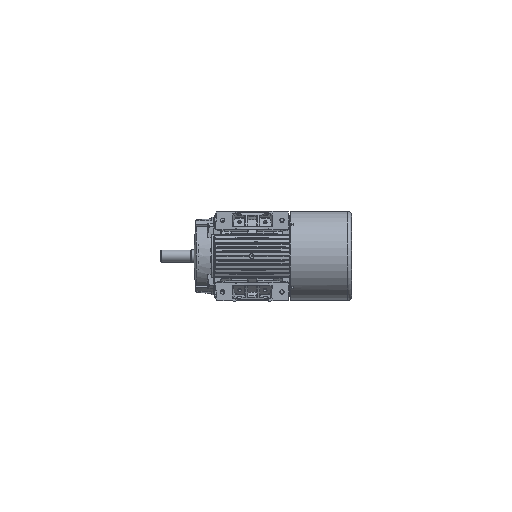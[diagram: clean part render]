
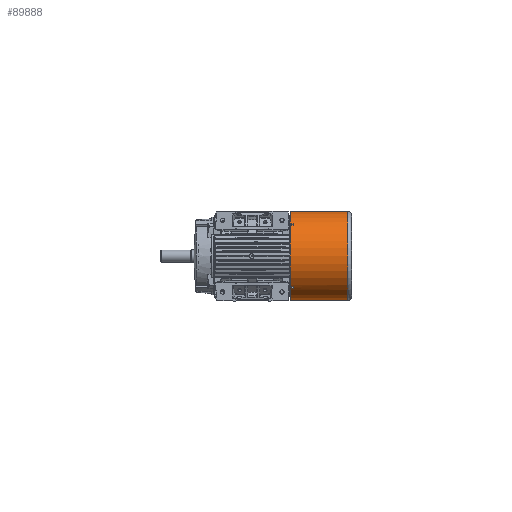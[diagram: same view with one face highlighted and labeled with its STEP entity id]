
A CAD part, front view. The second image highlights one B-rep face of the part: STEP entity #89888.
In plain terms, the highlighted cylindrical face has radius 157.5 mm (diameter 315 mm), a full revolution.
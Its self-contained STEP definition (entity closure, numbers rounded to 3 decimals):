
#89636=CARTESIAN_POINT('',(157.5,0.0,166.0));
#89637=VERTEX_POINT('',#89636);
#89638=CARTESIAN_POINT('',(0.0,0.0,166.0));
#89639=DIRECTION('',(0.0,0.0,1.0));
#89640=DIRECTION('',(1.0,0.0,0.0));
#89641=AXIS2_PLACEMENT_3D('',#89638,#89639,#89640);
#89642=CIRCLE('',#89641,157.5);
#89643=EDGE_CURVE('',#89637,#89637,#89642,.T.);
#89676=CARTESIAN_POINT('',(0.0,0.0,0.0));
#89677=DIRECTION('',(0.0,0.0,1.0));
#89678=DIRECTION('',(1.0,0.0,0.0));
#89679=AXIS2_PLACEMENT_3D('',#89676,#89677,#89678);
#89680=CYLINDRICAL_SURFACE('',#89679,157.5);
#89681=ORIENTED_EDGE('',*,*,#89643,.T.);
#89682=EDGE_LOOP('',(#89681));
#89683=FACE_OUTER_BOUND('',#89682,.T.);
#89684=CARTESIAN_POINT('',(-108.867,-113.817,366.5));
#89685=VERTEX_POINT('',#89684);
#89686=CARTESIAN_POINT('',(-108.867,-113.817,359.5));
#89687=VERTEX_POINT('',#89686);
#89688=CARTESIAN_POINT('',(-108.867,-113.817,366.5));
#89689=DIRECTION('',(0.0,0.0,-1.0));
#89690=VECTOR('',#89689,7.);
#89691=LINE('',#89688,#89690);
#89692=EDGE_CURVE('',#89685,#89687,#89691,.T.);
#89693=ORIENTED_EDGE('',*,*,#89692,.T.);
#89694=CARTESIAN_POINT('',(-113.817,-108.867,359.5));
#89695=VERTEX_POINT('',#89694);
#89696=CARTESIAN_POINT('',(0.0,0.0,359.5));
#89697=DIRECTION('',(0.0,0.0,-1.0));
#89698=DIRECTION('',(1.0,0.0,0.0));
#89699=AXIS2_PLACEMENT_3D('',#89696,#89697,#89698);
#89700=CIRCLE('',#89699,157.5);
#89701=EDGE_CURVE('',#89687,#89695,#89700,.T.);
#89702=ORIENTED_EDGE('',*,*,#89701,.T.);
#89703=CARTESIAN_POINT('',(-113.817,-108.867,366.5));
#89704=VERTEX_POINT('',#89703);
#89705=CARTESIAN_POINT('',(-113.817,-108.867,359.5));
#89706=DIRECTION('',(0.0,0.0,1.0));
#89707=VECTOR('',#89706,7.);
#89708=LINE('',#89705,#89707);
#89709=EDGE_CURVE('',#89695,#89704,#89708,.T.);
#89710=ORIENTED_EDGE('',*,*,#89709,.T.);
#89711=CARTESIAN_POINT('',(0.0,0.0,366.5));
#89712=DIRECTION('',(0.0,0.0,1.0));
#89713=DIRECTION('',(1.0,0.0,0.0));
#89714=AXIS2_PLACEMENT_3D('',#89711,#89712,#89713);
#89715=CIRCLE('',#89714,157.5);
#89716=EDGE_CURVE('',#89704,#89685,#89715,.T.);
#89717=ORIENTED_EDGE('',*,*,#89716,.T.);
#89718=EDGE_LOOP('',(#89693,#89702,#89710,#89717));
#89719=FACE_BOUND('',#89718,.T.);
#89720=CARTESIAN_POINT('',(113.817,-108.867,366.5));
#89721=VERTEX_POINT('',#89720);
#89722=CARTESIAN_POINT('',(113.817,-108.867,359.5));
#89723=VERTEX_POINT('',#89722);
#89724=CARTESIAN_POINT('',(113.817,-108.867,366.5));
#89725=DIRECTION('',(0.0,0.0,-1.0));
#89726=VECTOR('',#89725,7.);
#89727=LINE('',#89724,#89726);
#89728=EDGE_CURVE('',#89721,#89723,#89727,.T.);
#89729=ORIENTED_EDGE('',*,*,#89728,.T.);
#89730=CARTESIAN_POINT('',(108.867,-113.817,359.5));
#89731=VERTEX_POINT('',#89730);
#89732=CARTESIAN_POINT('',(0.0,0.0,359.5));
#89733=DIRECTION('',(0.0,0.0,-1.0));
#89734=DIRECTION('',(1.0,0.0,0.0));
#89735=AXIS2_PLACEMENT_3D('',#89732,#89733,#89734);
#89736=CIRCLE('',#89735,157.5);
#89737=EDGE_CURVE('',#89723,#89731,#89736,.T.);
#89738=ORIENTED_EDGE('',*,*,#89737,.T.);
#89739=CARTESIAN_POINT('',(108.867,-113.817,366.5));
#89740=VERTEX_POINT('',#89739);
#89741=CARTESIAN_POINT('',(108.867,-113.817,359.5));
#89742=DIRECTION('',(0.0,0.0,1.0));
#89743=VECTOR('',#89742,7.);
#89744=LINE('',#89741,#89743);
#89745=EDGE_CURVE('',#89731,#89740,#89744,.T.);
#89746=ORIENTED_EDGE('',*,*,#89745,.T.);
#89747=CARTESIAN_POINT('',(0.0,0.0,366.5));
#89748=DIRECTION('',(0.0,0.0,1.0));
#89749=DIRECTION('',(1.0,0.0,0.0));
#89750=AXIS2_PLACEMENT_3D('',#89747,#89748,#89749);
#89751=CIRCLE('',#89750,157.5);
#89752=EDGE_CURVE('',#89740,#89721,#89751,.T.);
#89753=ORIENTED_EDGE('',*,*,#89752,.T.);
#89754=EDGE_LOOP('',(#89729,#89738,#89746,#89753));
#89755=FACE_BOUND('',#89754,.T.);
#89756=CARTESIAN_POINT('',(157.5,0.0,370.0));
#89757=VERTEX_POINT('',#89756);
#89758=CARTESIAN_POINT('',(0.0,0.0,370.0));
#89759=DIRECTION('',(0.0,0.0,-1.0));
#89760=DIRECTION('',(1.0,0.0,0.0));
#89761=AXIS2_PLACEMENT_3D('',#89758,#89759,#89760);
#89762=CIRCLE('',#89761,157.5);
#89763=EDGE_CURVE('',#89757,#89757,#89762,.T.);
#89764=ORIENTED_EDGE('',*,*,#89763,.T.);
#89765=EDGE_LOOP('',(#89764));
#89766=FACE_BOUND('',#89765,.T.);
#89767=CARTESIAN_POINT('',(-113.817,108.867,366.5));
#89768=VERTEX_POINT('',#89767);
#89769=CARTESIAN_POINT('',(-113.817,108.867,359.5));
#89770=VERTEX_POINT('',#89769);
#89771=CARTESIAN_POINT('',(-113.817,108.867,366.5));
#89772=DIRECTION('',(0.0,0.0,-1.0));
#89773=VECTOR('',#89772,7.);
#89774=LINE('',#89771,#89773);
#89775=EDGE_CURVE('',#89768,#89770,#89774,.T.);
#89776=ORIENTED_EDGE('',*,*,#89775,.T.);
#89777=CARTESIAN_POINT('',(-108.867,113.817,359.5));
#89778=VERTEX_POINT('',#89777);
#89779=CARTESIAN_POINT('',(0.0,0.0,359.5));
#89780=DIRECTION('',(0.0,0.0,-1.0));
#89781=DIRECTION('',(1.0,0.0,0.0));
#89782=AXIS2_PLACEMENT_3D('',#89779,#89780,#89781);
#89783=CIRCLE('',#89782,157.5);
#89784=EDGE_CURVE('',#89770,#89778,#89783,.T.);
#89785=ORIENTED_EDGE('',*,*,#89784,.T.);
#89786=CARTESIAN_POINT('',(-108.867,113.817,366.5));
#89787=VERTEX_POINT('',#89786);
#89788=CARTESIAN_POINT('',(-108.867,113.817,359.5));
#89789=DIRECTION('',(0.0,0.0,1.0));
#89790=VECTOR('',#89789,7.);
#89791=LINE('',#89788,#89790);
#89792=EDGE_CURVE('',#89778,#89787,#89791,.T.);
#89793=ORIENTED_EDGE('',*,*,#89792,.T.);
#89794=CARTESIAN_POINT('',(0.0,0.0,366.5));
#89795=DIRECTION('',(0.0,0.0,1.0));
#89796=DIRECTION('',(1.0,0.0,0.0));
#89797=AXIS2_PLACEMENT_3D('',#89794,#89795,#89796);
#89798=CIRCLE('',#89797,157.5);
#89799=EDGE_CURVE('',#89787,#89768,#89798,.T.);
#89800=ORIENTED_EDGE('',*,*,#89799,.T.);
#89801=EDGE_LOOP('',(#89776,#89785,#89793,#89800));
#89802=FACE_BOUND('',#89801,.T.);
#89803=CARTESIAN_POINT('',(0.0,157.5,254.));
#89804=VERTEX_POINT('',#89803);
#89805=CARTESIAN_POINT('',(0.,157.5,264.0));
#89806=VERTEX_POINT('',#89805);
#89807=CARTESIAN_POINT('',(0.,157.5,254.));
#89808=CARTESIAN_POINT('',(0.628,157.5,254.));
#89809=CARTESIAN_POINT('',(1.298,157.496,254.125));
#89810=CARTESIAN_POINT('',(2.529,157.481,254.636));
#89811=CARTESIAN_POINT('',(3.092,157.47,255.021));
#89812=CARTESIAN_POINT('',(3.979,157.45,255.908));
#89813=CARTESIAN_POINT('',(4.364,157.44,256.471));
#89814=CARTESIAN_POINT('',(4.875,157.425,257.702));
#89815=CARTESIAN_POINT('',(5.,157.421,258.372));
#89816=CARTESIAN_POINT('',(5.,157.421,259.0));
#89817=CARTESIAN_POINT('',(5.,157.421,259.628));
#89818=CARTESIAN_POINT('',(4.875,157.425,260.298));
#89819=CARTESIAN_POINT('',(4.364,157.44,261.529));
#89820=CARTESIAN_POINT('',(3.979,157.45,262.092));
#89821=CARTESIAN_POINT('',(3.092,157.47,262.979));
#89822=CARTESIAN_POINT('',(2.529,157.481,263.364));
#89823=CARTESIAN_POINT('',(1.298,157.496,263.875));
#89824=CARTESIAN_POINT('',(0.628,157.5,264.0));
#89825=CARTESIAN_POINT('',(0.,157.5,264.));
#89826=B_SPLINE_CURVE_WITH_KNOTS('',3,(#89807,#89808,#89809,#89810,#89811,#89812,#89813,#89814,#89815,#89816,#89817,#89818,#89819,#89820,#89821,#89822,#89823,#89824,#89825),.UNSPECIFIED.,.F.,.U.,(4,2,2,2,3,2,2,2,4),(-0.753,-0.565,-0.377,-0.188,0.0,0.188,0.377,0.565,0.753),.UNSPECIFIED.);
#89827=EDGE_CURVE('',#89804,#89806,#89826,.T.);
#89828=ORIENTED_EDGE('',*,*,#89827,.T.);
#89829=CARTESIAN_POINT('',(0.,157.5,264.));
#89830=CARTESIAN_POINT('',(-0.628,157.5,264.));
#89831=CARTESIAN_POINT('',(-1.298,157.496,263.875));
#89832=CARTESIAN_POINT('',(-2.529,157.481,263.364));
#89833=CARTESIAN_POINT('',(-3.092,157.47,262.979));
#89834=CARTESIAN_POINT('',(-3.979,157.45,262.092));
#89835=CARTESIAN_POINT('',(-4.364,157.44,261.529));
#89836=CARTESIAN_POINT('',(-4.875,157.425,260.298));
#89837=CARTESIAN_POINT('',(-5.,157.421,259.628));
#89838=CARTESIAN_POINT('',(-5.,157.421,258.372));
#89839=CARTESIAN_POINT('',(-4.875,157.425,257.702));
#89840=CARTESIAN_POINT('',(-4.364,157.44,256.471));
#89841=CARTESIAN_POINT('',(-3.979,157.45,255.908));
#89842=CARTESIAN_POINT('',(-3.092,157.47,255.021));
#89843=CARTESIAN_POINT('',(-2.529,157.481,254.636));
#89844=CARTESIAN_POINT('',(-1.298,157.496,254.125));
#89845=CARTESIAN_POINT('',(-0.628,157.5,254.));
#89846=CARTESIAN_POINT('',(0.,157.5,254.));
#89847=B_SPLINE_CURVE_WITH_KNOTS('',3,(#89829,#89830,#89831,#89832,#89833,#89834,#89835,#89836,#89837,#89838,#89839,#89840,#89841,#89842,#89843,#89844,#89845,#89846),.UNSPECIFIED.,.F.,.U.,(4,2,2,2,2,2,2,2,4),(-2.26,-2.072,-1.884,-1.695,-1.507,-1.318,-1.13,-0.942,-0.753),.UNSPECIFIED.);
#89848=EDGE_CURVE('',#89806,#89804,#89847,.T.);
#89849=ORIENTED_EDGE('',*,*,#89848,.T.);
#89850=EDGE_LOOP('',(#89828,#89849));
#89851=FACE_BOUND('',#89850,.T.);
#89852=CARTESIAN_POINT('',(108.867,113.817,366.5));
#89853=VERTEX_POINT('',#89852);
#89854=CARTESIAN_POINT('',(108.867,113.817,359.5));
#89855=VERTEX_POINT('',#89854);
#89856=CARTESIAN_POINT('',(108.867,113.817,366.5));
#89857=DIRECTION('',(0.0,0.0,-1.0));
#89858=VECTOR('',#89857,7.);
#89859=LINE('',#89856,#89858);
#89860=EDGE_CURVE('',#89853,#89855,#89859,.T.);
#89861=ORIENTED_EDGE('',*,*,#89860,.T.);
#89862=CARTESIAN_POINT('',(113.817,108.867,359.5));
#89863=VERTEX_POINT('',#89862);
#89864=CARTESIAN_POINT('',(0.0,0.0,359.5));
#89865=DIRECTION('',(0.0,0.0,-1.0));
#89866=DIRECTION('',(1.0,0.0,0.0));
#89867=AXIS2_PLACEMENT_3D('',#89864,#89865,#89866);
#89868=CIRCLE('',#89867,157.5);
#89869=EDGE_CURVE('',#89855,#89863,#89868,.T.);
#89870=ORIENTED_EDGE('',*,*,#89869,.T.);
#89871=CARTESIAN_POINT('',(113.817,108.867,366.5));
#89872=VERTEX_POINT('',#89871);
#89873=CARTESIAN_POINT('',(113.817,108.867,359.5));
#89874=DIRECTION('',(0.0,0.0,1.0));
#89875=VECTOR('',#89874,7.);
#89876=LINE('',#89873,#89875);
#89877=EDGE_CURVE('',#89863,#89872,#89876,.T.);
#89878=ORIENTED_EDGE('',*,*,#89877,.T.);
#89879=CARTESIAN_POINT('',(0.0,0.0,366.5));
#89880=DIRECTION('',(0.0,0.0,1.0));
#89881=DIRECTION('',(1.0,0.0,0.0));
#89882=AXIS2_PLACEMENT_3D('',#89879,#89880,#89881);
#89883=CIRCLE('',#89882,157.5);
#89884=EDGE_CURVE('',#89872,#89853,#89883,.T.);
#89885=ORIENTED_EDGE('',*,*,#89884,.T.);
#89886=EDGE_LOOP('',(#89861,#89870,#89878,#89885));
#89887=FACE_BOUND('',#89886,.T.);
#89888=ADVANCED_FACE('',(#89683,#89719,#89755,#89766,#89802,#89851,#89887),#89680,.T.);
